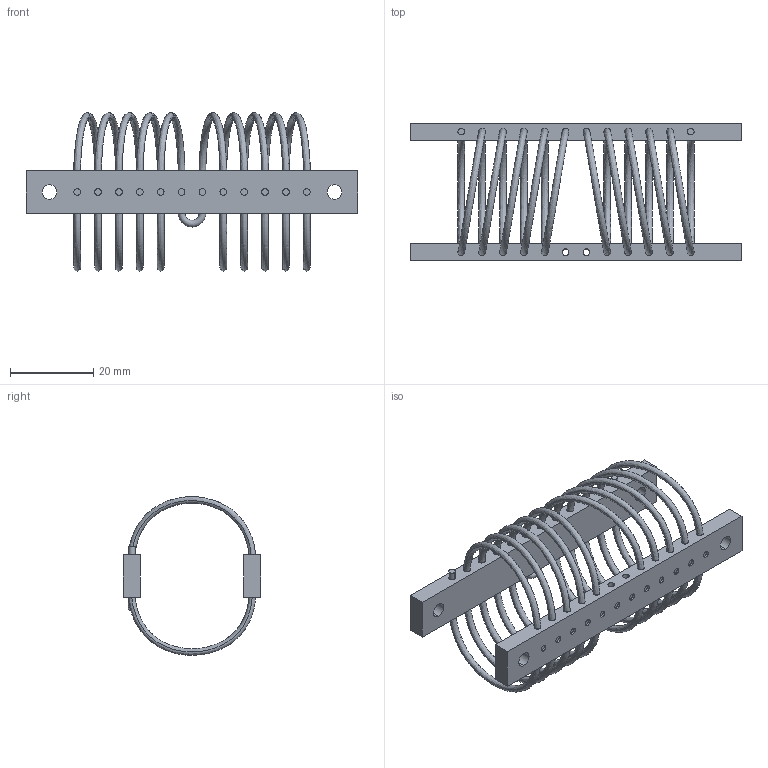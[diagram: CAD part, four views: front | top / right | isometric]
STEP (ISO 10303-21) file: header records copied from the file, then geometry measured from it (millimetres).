
FILE_DESCRIPTION (( 'STEP AP214' ), '1' );
FILE_NAME ('WR2-800-10DM.STEP', '2018-12-07T09:46:11', ( 'user' ), ( 'Microsoft' ), 'SwSTEP 2.0', 'SolidWorks 2016', '' );
FILE_SCHEMA (( 'AUTOMOTIVE_DESIGN' ));
Length unit declared in the file: millimetre
Products named in the file (1): WR2-800-10DM
Bounding box: 79.5 x 33 x 38 mm (x, y, z)
Volume: 8194 mm3; surface area: 11651.4 mm2
Topology: 25 solids, 25 shells, 316 faces, 702 edges, 460 vertices
Faces by surface type: cylinder 192, plane 82, bspline 40, torus 2
Entity records: 18882 total; most frequent: CARTESIAN_POINT 11699, ORIENTED_EDGE 1404, DIRECTION 1382, EDGE_CURVE 702, AXIS2_PLACEMENT_3D 583, VERTEX_POINT 460, EDGE_LOOP 396, ADVANCED_FACE 316
